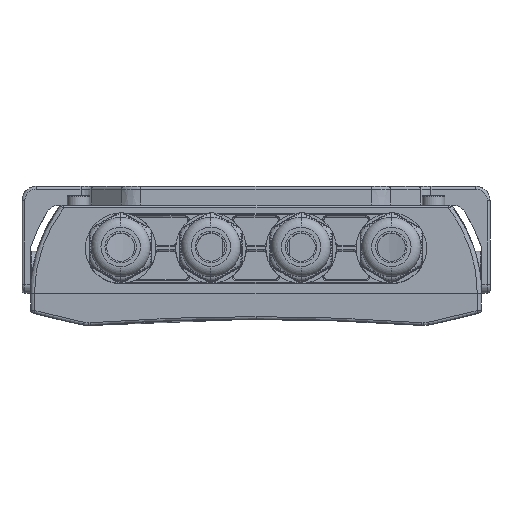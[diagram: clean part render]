
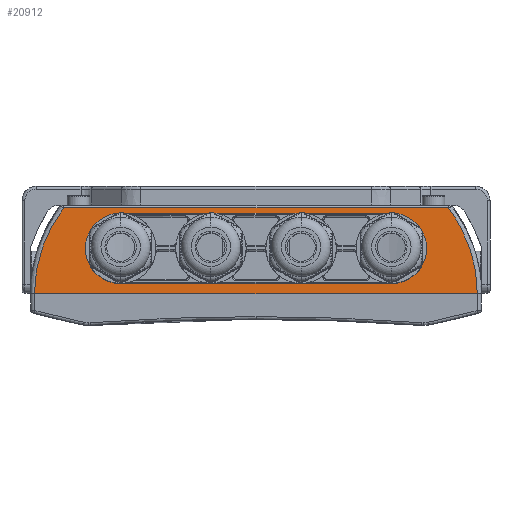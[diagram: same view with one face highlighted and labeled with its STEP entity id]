
A CAD part, front view. The second image highlights one B-rep face of the part: STEP entity #20912.
In plain terms, the highlighted planar face has unit normal (0, -1, 0.018).
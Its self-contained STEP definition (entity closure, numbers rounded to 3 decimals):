
#1034 = LINE ( 'NONE', #39694, #72852 ) ;
#1068 = DIRECTION ( 'NONE',  ( 0., -0.017, -1. ) ) ;
#1230 = VERTEX_POINT ( 'NONE', #59510 ) ;
#2121 = CARTESIAN_POINT ( 'NONE',  ( -68.127, -52.469, 33.217 ) ) ;
#4612 = EDGE_LOOP ( 'NONE', ( #32037, #68047, #6196, #41129 ) ) ;
#5412 =( BOUNDED_CURVE ( )  B_SPLINE_CURVE ( 3, ( #45002, #57048, #6580, #23632 ),
 .UNSPECIFIED., .F., .F. ) 
 B_SPLINE_CURVE_WITH_KNOTS ( ( 4, 4 ),
 ( 1.57, 2.229 ),
 .UNSPECIFIED. ) 
 CURVE ( )  GEOMETRIC_REPRESENTATION_ITEM ( )  RATIONAL_B_SPLINE_CURVE ( ( 1., 0.964, 0.964, 1. ) ) 
 REPRESENTATION_ITEM ( '' )  );
#5736 = DIRECTION ( 'NONE',  ( 0., -0.017, -1. ) ) ;
#6181 = LINE ( 'NONE', #55561, #35750 ) ;
#6196 = ORIENTED_EDGE ( 'NONE', *, *, #23436, .F. ) ;
#6534 = VERTEX_POINT ( 'NONE', #28142 ) ;
#6580 = CARTESIAN_POINT ( 'NONE',  ( 74.92, -52.623, 24.426 ) ) ;
#8727 = EDGE_CURVE ( 'NONE', #37294, #17668, #33901, .T. ) ;
#10146 = DIRECTION ( 'NONE',  ( -1., 0., 0. ) ) ;
#10977 = VERTEX_POINT ( 'NONE', #35893 ) ;
#11210 = EDGE_CURVE ( 'NONE', #49693, #45950, #11338, .T. ) ;
#11338 = CIRCLE ( 'NONE', #25002, 12.5 ) ;
#11592 = DIRECTION ( 'NONE',  ( -1., 0., 0. ) ) ;
#14897 = CARTESIAN_POINT ( 'NONE',  ( 0., -52.503, 31.296 ) ) ;
#15492 = AXIS2_PLACEMENT_3D ( 'NONE', #50657, #28070, #5736 ) ;
#15882 = VECTOR ( 'NONE', #10146, 1000. ) ;
#16344 = CARTESIAN_POINT ( 'NONE',  ( -48., -52.939, 6.299 ) ) ;
#16806 = PLANE ( 'NONE',  #15492 ) ;
#17668 = VERTEX_POINT ( 'NONE', #56756 ) ;
#19912 = VECTOR ( 'NONE', #53930, 1000. ) ;
#20912 = ADVANCED_FACE ( 'NONE', ( #48380, #33153 ), #16806, .T. ) ;
#21530 = CARTESIAN_POINT ( 'NONE',  ( -78.5, -53., 2.8 ) ) ;
#22225 =( BOUNDED_CURVE ( )  B_SPLINE_CURVE ( 3, ( #51093, #73405, #55895, #21530 ),
 .UNSPECIFIED., .F., .F. ) 
 B_SPLINE_CURVE_WITH_KNOTS ( ( 4, 4 ),
 ( 4.055, 4.713 ),
 .UNSPECIFIED. ) 
 CURVE ( )  GEOMETRIC_REPRESENTATION_ITEM ( )  RATIONAL_B_SPLINE_CURVE ( ( 1., 0.964, 0.964, 1. ) ) 
 REPRESENTATION_ITEM ( '' )  );
#22722 = CARTESIAN_POINT ( 'NONE',  ( 48., -52.939, 6.299 ) ) ;
#23436 = EDGE_CURVE ( 'NONE', #17668, #49693, #62507, .T. ) ;
#23632 = CARTESIAN_POINT ( 'NONE',  ( 68.127, -52.469, 33.217 ) ) ;
#25002 = AXIS2_PLACEMENT_3D ( 'NONE', #44647, #44164, #72461 ) ;
#27360 = EDGE_LOOP ( 'NONE', ( #45179, #45588, #54443, #66924 ) ) ;
#28070 = DIRECTION ( 'NONE',  ( 0., -1., 0.017 ) ) ;
#28142 = CARTESIAN_POINT ( 'NONE',  ( -78.5, -53., 2.8 ) ) ;
#32037 = ORIENTED_EDGE ( 'NONE', *, *, #56695, .F. ) ;
#33153 = FACE_OUTER_BOUND ( 'NONE', #27360, .T. ) ;
#33901 = CIRCLE ( 'NONE', #44613, 12.5 ) ;
#35159 = LINE ( 'NONE', #48131, #19912 ) ;
#35750 = VECTOR ( 'NONE', #44013, 1000. ) ;
#35893 = CARTESIAN_POINT ( 'NONE',  ( 68.127, -52.469, 33.217 ) ) ;
#36097 = EDGE_CURVE ( 'NONE', #1230, #10977, #5412, .T. ) ;
#37294 = VERTEX_POINT ( 'NONE', #22722 ) ;
#39694 = CARTESIAN_POINT ( 'NONE',  ( -67.348, -52.469, 33.217 ) ) ;
#41129 = ORIENTED_EDGE ( 'NONE', *, *, #8727, .F. ) ;
#44013 = DIRECTION ( 'NONE',  ( 1., 0., 0. ) ) ;
#44164 = DIRECTION ( 'NONE',  ( 0., -1., 0.017 ) ) ;
#44408 = EDGE_CURVE ( 'NONE', #6534, #1230, #6181, .T. ) ;
#44613 = AXIS2_PLACEMENT_3D ( 'NONE', #64482, #47209, #1068 ) ;
#44647 = CARTESIAN_POINT ( 'NONE',  ( -48., -52.721, 18.798 ) ) ;
#45002 = CARTESIAN_POINT ( 'NONE',  ( 78.5, -53., 2.8 ) ) ;
#45179 = ORIENTED_EDGE ( 'NONE', *, *, #36097, .T. ) ;
#45588 = ORIENTED_EDGE ( 'NONE', *, *, #56475, .T. ) ;
#45950 = VERTEX_POINT ( 'NONE', #16344 ) ;
#47209 = DIRECTION ( 'NONE',  ( 0., -1., 0.017 ) ) ;
#48131 = CARTESIAN_POINT ( 'NONE',  ( 0., -52.939, 6.299 ) ) ;
#48380 = FACE_BOUND ( 'NONE', #4612, .T. ) ;
#49693 = VERTEX_POINT ( 'NONE', #60282 ) ;
#50657 = CARTESIAN_POINT ( 'NONE',  ( 0., -53., 2.8 ) ) ;
#51093 = CARTESIAN_POINT ( 'NONE',  ( -68.127, -52.469, 33.217 ) ) ;
#53930 = DIRECTION ( 'NONE',  ( 1., 0., 0. ) ) ;
#54443 = ORIENTED_EDGE ( 'NONE', *, *, #60226, .T. ) ;
#55561 = CARTESIAN_POINT ( 'NONE',  ( 0., -53., 2.8 ) ) ;
#55895 = CARTESIAN_POINT ( 'NONE',  ( -78.506, -52.806, 13.91 ) ) ;
#56475 = EDGE_CURVE ( 'NONE', #10977, #67548, #1034, .T. ) ;
#56695 = EDGE_CURVE ( 'NONE', #45950, #37294, #35159, .T. ) ;
#56756 = CARTESIAN_POINT ( 'NONE',  ( 48., -52.503, 31.296 ) ) ;
#57048 = CARTESIAN_POINT ( 'NONE',  ( 78.506, -52.806, 13.91 ) ) ;
#59510 = CARTESIAN_POINT ( 'NONE',  ( 78.5, -53., 2.8 ) ) ;
#60226 = EDGE_CURVE ( 'NONE', #67548, #6534, #22225, .T. ) ;
#60282 = CARTESIAN_POINT ( 'NONE',  ( -48., -52.503, 31.296 ) ) ;
#62507 = LINE ( 'NONE', #14897, #15882 ) ;
#64482 = CARTESIAN_POINT ( 'NONE',  ( 48., -52.721, 18.798 ) ) ;
#66924 = ORIENTED_EDGE ( 'NONE', *, *, #44408, .T. ) ;
#67548 = VERTEX_POINT ( 'NONE', #2121 ) ;
#68047 = ORIENTED_EDGE ( 'NONE', *, *, #11210, .F. ) ;
#72461 = DIRECTION ( 'NONE',  ( 0., -0.017, -1. ) ) ;
#72852 = VECTOR ( 'NONE', #11592, 1000. ) ;
#73405 = CARTESIAN_POINT ( 'NONE',  ( -74.92, -52.623, 24.426 ) ) ;
